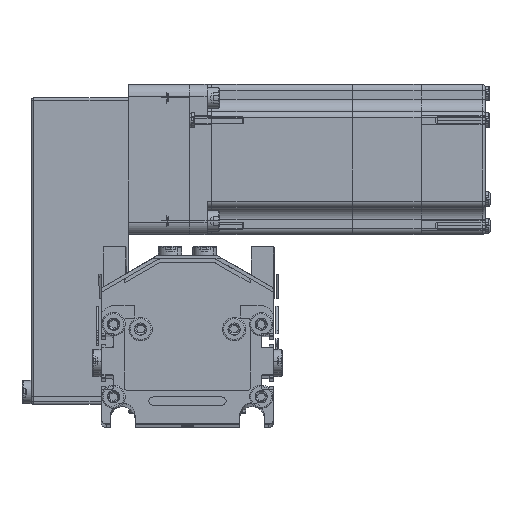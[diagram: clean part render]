
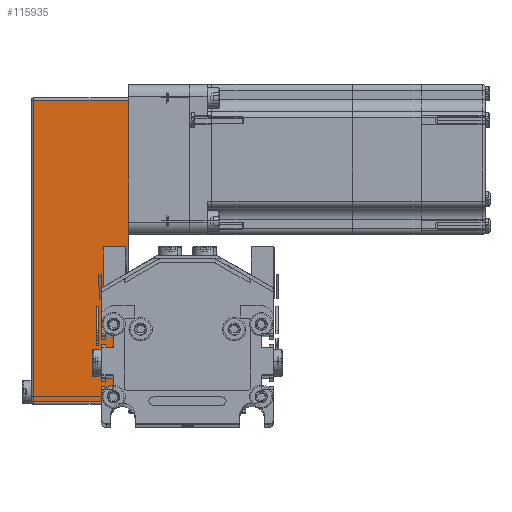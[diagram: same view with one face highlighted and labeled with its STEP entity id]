
A CAD part, top view. The second image highlights one B-rep face of the part: STEP entity #115935.
In plain terms, the highlighted planar face has unit normal (0, 0, 1) as drawn and (0, -1, 0) by its records, which use the part's own axes.
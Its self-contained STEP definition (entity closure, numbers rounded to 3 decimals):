
#20573 = CARTESIAN_POINT ( 'NONE',  ( 73.5, -25., 38.5 ) ) ;
#21369 = DIRECTION ( 'NONE',  ( 0., 0., 1. ) ) ;
#21370 = VECTOR ( 'NONE', #21369, 1000. ) ;
#21400 = CARTESIAN_POINT ( 'NONE',  ( 73.5, -25., 39.5 ) ) ;
#21401 = LINE ( 'NONE', #21400, #21370 ) ;
#22087 = DIRECTION ( 'NONE',  ( 1., 0., 0. ) ) ;
#22089 = VECTOR ( 'NONE', #22087, 1000. ) ;
#22096 = CARTESIAN_POINT ( 'NONE',  ( -50., -25., 0. ) ) ;
#22097 = LINE ( 'NONE', #22096, #22089 ) ;
#22235 = FACE_OUTER_BOUND ( 'NONE', #115894, .T. ) ;
#22247 = AXIS2_PLACEMENT_3D ( 'NONE', #22384, #22389, #22368 ) ;
#22262 = PLANE ( 'NONE',  #22247 ) ;
#22368 = DIRECTION ( 'NONE',  ( 0., 0., 1. ) ) ;
#22379 = CARTESIAN_POINT ( 'NONE',  ( -49., -25., 38.5 ) ) ;
#22384 = CARTESIAN_POINT ( 'NONE',  ( -50., -25., 39.5 ) ) ;
#22389 = DIRECTION ( 'NONE',  ( 0., 1., 0. ) ) ;
#22426 = CARTESIAN_POINT ( 'NONE',  ( 73.5, -25., 0. ) ) ;
#22447 = DIRECTION ( 'NONE',  ( -1., 0., 0. ) ) ;
#22449 = VECTOR ( 'NONE', #22447, 1000. ) ;
#22455 = CARTESIAN_POINT ( 'NONE',  ( -50., -25., 38.5 ) ) ;
#22456 = LINE ( 'NONE', #22455, #22449 ) ;
#22460 = DIRECTION ( 'NONE',  ( 0., 0., -1. ) ) ;
#22463 = VECTOR ( 'NONE', #22460, 1000. ) ;
#22465 = CARTESIAN_POINT ( 'NONE',  ( -49., -25., 39.5 ) ) ;
#22468 = LINE ( 'NONE', #22465, #22463 ) ;
#22835 = CARTESIAN_POINT ( 'NONE',  ( -49., -25., 0. ) ) ;
#115529 = ORIENTED_EDGE ( 'NONE', *, *, #115875, .T. ) ;
#115757 = ORIENTED_EDGE ( 'NONE', *, *, #115760, .T. ) ;
#115760 = EDGE_CURVE ( 'NONE', #115962, #115835, #21401, .T. ) ;
#115835 = VERTEX_POINT ( 'NONE', #20573 ) ;
#115875 = EDGE_CURVE ( 'NONE', #116036, #115962, #22097, .T. ) ;
#115894 = EDGE_LOOP ( 'NONE', ( #115947, #115954, #115529, #115757 ) ) ;
#115935 = ADVANCED_FACE ( 'NONE', ( #22235 ), #22262, .F. ) ;
#115936 = VERTEX_POINT ( 'NONE', #22379 ) ;
#115947 = ORIENTED_EDGE ( 'NONE', *, *, #115951, .T. ) ;
#115948 = EDGE_CURVE ( 'NONE', #115936, #116036, #22468, .T. ) ;
#115951 = EDGE_CURVE ( 'NONE', #115835, #115936, #22456, .T. ) ;
#115954 = ORIENTED_EDGE ( 'NONE', *, *, #115948, .T. ) ;
#115962 = VERTEX_POINT ( 'NONE', #22426 ) ;
#116036 = VERTEX_POINT ( 'NONE', #22835 ) ;
